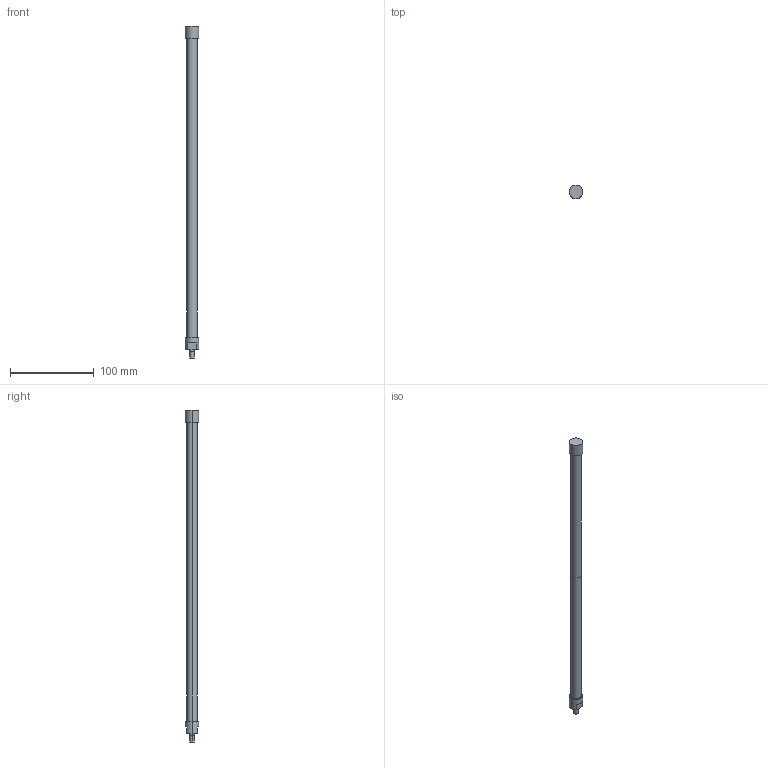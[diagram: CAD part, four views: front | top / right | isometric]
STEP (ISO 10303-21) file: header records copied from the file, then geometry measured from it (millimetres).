
FILE_DESCRIPTION(('STEP AP214'),'1');
FILE_NAME('ETT-R025M395.stp','2015-02-04T08:09:31',(' '),(' '),'Spatial InterOp 3D',' ',' ');
FILE_SCHEMA(('automotive_design'));
Length unit declared in the file: metre
Products named in the file (2): 1; 2
Bounding box: 16 x 16 x 396 mm (x, y, z)
Volume: 29532.9 mm3; surface area: 22030.6 mm2
Topology: 1 solids, 5 shells, 24 faces, 56 edges, 42 vertices
Faces by surface type: cylinder 12, plane 12
Entity records: 952 total; most frequent: DIRECTION 142, CARTESIAN_POINT 124, ORIENTED_EDGE 100, AXIS2_PLACEMENT_3D 60, EDGE_CURVE 56, VERTEX_POINT 42, CIRCLE 34, EDGE_LOOP 28
